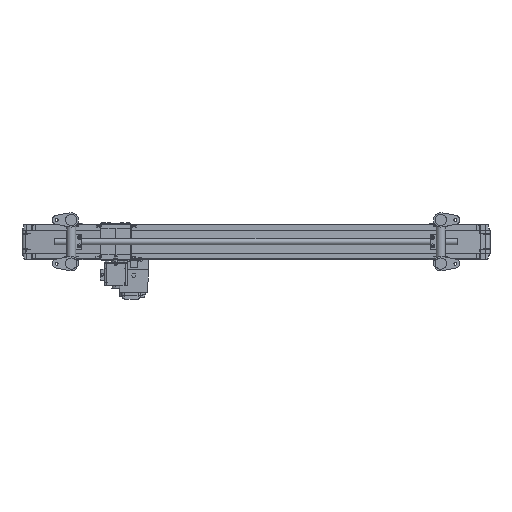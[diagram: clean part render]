
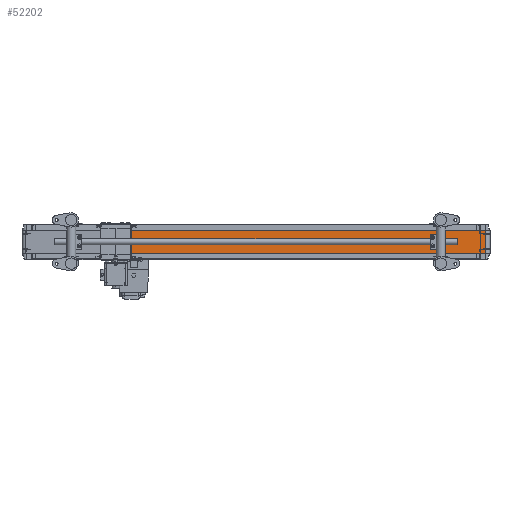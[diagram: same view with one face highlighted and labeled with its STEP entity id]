
A CAD part, front view. The second image highlights one B-rep face of the part: STEP entity #52202.
In plain terms, the highlighted planar face has unit normal (0.023, -1, 0).
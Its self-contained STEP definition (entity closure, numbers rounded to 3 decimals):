
#1106 = ORIENTED_EDGE ( 'NONE', *, *, #33632, .T. ) ;
#2290 = CARTESIAN_POINT ( 'NONE',  ( 1982.907, -34.195, 50. ) ) ;
#3050 = VERTEX_POINT ( 'NONE', #102658 ) ;
#5137 = EDGE_LOOP ( 'NONE', ( #20474, #20076, #73588, #1106 ) ) ;
#13004 = FACE_OUTER_BOUND ( 'NONE', #5137, .T. ) ;
#13556 = CARTESIAN_POINT ( 'NONE',  ( 434.607, -70.005, -50. ) ) ;
#20076 = ORIENTED_EDGE ( 'NONE', *, *, #102869, .F. ) ;
#20474 = ORIENTED_EDGE ( 'NONE', *, *, #76984, .T. ) ;
#22059 = VERTEX_POINT ( 'NONE', #81485 ) ;
#22438 = AXIS2_PLACEMENT_3D ( 'NONE', #65714, #26311, #41953 ) ;
#26311 = DIRECTION ( 'NONE',  ( -0.023, 1., 0. ) ) ;
#30224 = LINE ( 'NONE', #86268, #60107 ) ;
#30949 = EDGE_CURVE ( 'NONE', #22059, #3050, #30224, .T. ) ;
#33632 = EDGE_CURVE ( 'NONE', #22059, #77730, #83378, .T. ) ;
#37084 = LINE ( 'NONE', #13556, #55781 ) ;
#41953 = DIRECTION ( 'NONE',  ( 1., 0.023, 0. ) ) ;
#45896 = VECTOR ( 'NONE', #54561, 1000. ) ;
#52202 = ADVANCED_FACE ( 'NONE', ( #13004 ), #58632, .F. ) ;
#54561 = DIRECTION ( 'NONE',  ( 0., 0., 1. ) ) ;
#54758 = CARTESIAN_POINT ( 'NONE',  ( 1982.907, -34.195, 50. ) ) ;
#55134 = DIRECTION ( 'NONE',  ( -1., -0.023, 0. ) ) ;
#55781 = VECTOR ( 'NONE', #93467, 1000. ) ;
#58632 = PLANE ( 'NONE',  #22438 ) ;
#60107 = VECTOR ( 'NONE', #55134, 1000. ) ;
#64298 = VECTOR ( 'NONE', #79599, 1000. ) ;
#65714 = CARTESIAN_POINT ( 'NONE',  ( 1982.907, -34.195, -50. ) ) ;
#70606 = LINE ( 'NONE', #54758, #64298 ) ;
#73430 = VERTEX_POINT ( 'NONE', #96101 ) ;
#73588 = ORIENTED_EDGE ( 'NONE', *, *, #30949, .F. ) ;
#76984 = EDGE_CURVE ( 'NONE', #77730, #73430, #70606, .T. ) ;
#77730 = VERTEX_POINT ( 'NONE', #2290 ) ;
#79599 = DIRECTION ( 'NONE',  ( -1., -0.023, 0. ) ) ;
#81485 = CARTESIAN_POINT ( 'NONE',  ( 1982.907, -34.195, -50. ) ) ;
#83378 = LINE ( 'NONE', #102380, #45896 ) ;
#86268 = CARTESIAN_POINT ( 'NONE',  ( 1982.907, -34.195, -50. ) ) ;
#93467 = DIRECTION ( 'NONE',  ( 0., 0., 1. ) ) ;
#96101 = CARTESIAN_POINT ( 'NONE',  ( 434.607, -70.005, 50. ) ) ;
#102380 = CARTESIAN_POINT ( 'NONE',  ( 1982.907, -34.195, -50. ) ) ;
#102658 = CARTESIAN_POINT ( 'NONE',  ( 434.607, -70.005, -50. ) ) ;
#102869 = EDGE_CURVE ( 'NONE', #3050, #73430, #37084, .T. ) ;
